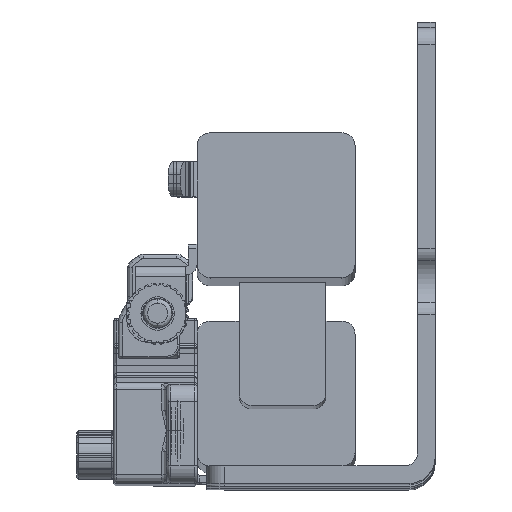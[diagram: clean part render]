
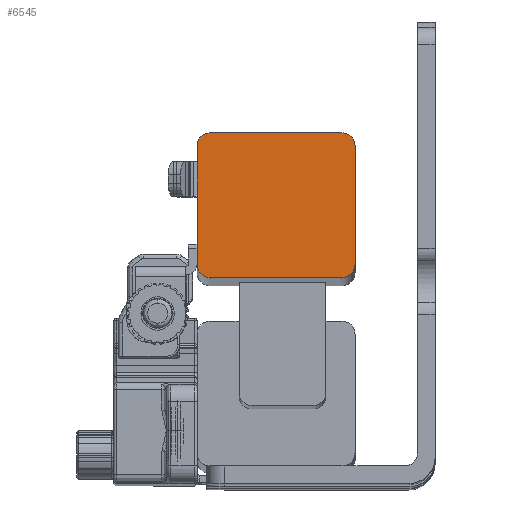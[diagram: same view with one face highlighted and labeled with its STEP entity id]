
A CAD part, top view. The second image highlights one B-rep face of the part: STEP entity #6545.
In plain terms, the highlighted planar face has unit normal (0, 0, 1).
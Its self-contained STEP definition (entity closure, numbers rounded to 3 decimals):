
#274 = VECTOR ( 'NONE', #38844, 1000. ) ;
#856 = VERTEX_POINT ( 'NONE', #59998 ) ;
#4195 = EDGE_CURVE ( 'NONE', #856, #41288, #75195, .T. ) ;
#4599 = DIRECTION ( 'NONE',  ( 0., -1., 0. ) ) ;
#6545 = ADVANCED_FACE ( 'NONE', ( #92036 ), #84496, .T. ) ;
#8576 = CARTESIAN_POINT ( 'NONE',  ( 9., -6.75, 543.1 ) ) ;
#8819 = VERTEX_POINT ( 'NONE', #52694 ) ;
#9535 = ORIENTED_EDGE ( 'NONE', *, *, #91769, .T. ) ;
#10104 = ORIENTED_EDGE ( 'NONE', *, *, #4195, .T. ) ;
#11264 = ORIENTED_EDGE ( 'NONE', *, *, #55963, .T. ) ;
#11595 = ORIENTED_EDGE ( 'NONE', *, *, #44663, .T. ) ;
#13411 = DIRECTION ( 'NONE',  ( 0., 0., 1. ) ) ;
#14455 = VERTEX_POINT ( 'NONE', #67943 ) ;
#16853 = DIRECTION ( 'NONE',  ( -1., 0., 0. ) ) ;
#18333 = AXIS2_PLACEMENT_3D ( 'NONE', #48508, #18851, #34385 ) ;
#18851 = DIRECTION ( 'NONE',  ( 0., 0., 1. ) ) ;
#20411 = DIRECTION ( 'NONE',  ( 1., 0., 0. ) ) ;
#20498 = VERTEX_POINT ( 'NONE', #8576 ) ;
#20832 = EDGE_CURVE ( 'NONE', #32694, #856, #39599, .T. ) ;
#22555 = DIRECTION ( 'NONE',  ( 0., 0., 1. ) ) ;
#22610 = VECTOR ( 'NONE', #24095, 1000. ) ;
#23805 = CARTESIAN_POINT ( 'NONE',  ( 9., 6.75, 543.1 ) ) ;
#24095 = DIRECTION ( 'NONE',  ( -1., 0., 0. ) ) ;
#24710 = DIRECTION ( 'NONE',  ( 1., 0., 0. ) ) ;
#26390 = AXIS2_PLACEMENT_3D ( 'NONE', #69718, #33923, #62661 ) ;
#26554 = DIRECTION ( 'NONE',  ( 0., 0., 1. ) ) ;
#31090 = VECTOR ( 'NONE', #24710, 1000. ) ;
#32550 = CARTESIAN_POINT ( 'NONE',  ( -9., 8.25, 543.1 ) ) ;
#32694 = VERTEX_POINT ( 'NONE', #85031 ) ;
#32893 = CIRCLE ( 'NONE', #85585, 1.5 ) ;
#33923 = DIRECTION ( 'NONE',  ( 0., 0., 1. ) ) ;
#34385 = DIRECTION ( 'NONE',  ( -1., 0., 0. ) ) ;
#38844 = DIRECTION ( 'NONE',  ( 0., 1., 0. ) ) ;
#39599 = LINE ( 'NONE', #32550, #22610 ) ;
#41288 = VERTEX_POINT ( 'NONE', #72510 ) ;
#44663 = EDGE_CURVE ( 'NONE', #57405, #14455, #66529, .T. ) ;
#45748 = ORIENTED_EDGE ( 'NONE', *, *, #47716, .T. ) ;
#46810 = CARTESIAN_POINT ( 'NONE',  ( 7.5, -8.25, 543.1 ) ) ;
#47716 = EDGE_CURVE ( 'NONE', #20498, #78920, #72823, .T. ) ;
#47826 = ORIENTED_EDGE ( 'NONE', *, *, #67501, .T. ) ;
#48215 = CARTESIAN_POINT ( 'NONE',  ( -7.51, 6.76, 543.1 ) ) ;
#48391 = CARTESIAN_POINT ( 'NONE',  ( -9., 8.25, 543.1 ) ) ;
#48508 = CARTESIAN_POINT ( 'NONE',  ( -7.5, -6.75, 543.1 ) ) ;
#50036 = CARTESIAN_POINT ( 'NONE',  ( -9., -6.75, 543.1 ) ) ;
#51709 = VECTOR ( 'NONE', #4599, 1000. ) ;
#51997 = CIRCLE ( 'NONE', #26390, 1.5 ) ;
#52694 = CARTESIAN_POINT ( 'NONE',  ( 7.5, -8.25, 543.1 ) ) ;
#52700 = CARTESIAN_POINT ( 'NONE',  ( 7.5, 6.75, 543.1 ) ) ;
#54045 = ORIENTED_EDGE ( 'NONE', *, *, #20832, .T. ) ;
#55963 = EDGE_CURVE ( 'NONE', #78920, #32694, #32893, .T. ) ;
#57183 = AXIS2_PLACEMENT_3D ( 'NONE', #78423, #13411, #70890 ) ;
#57405 = VERTEX_POINT ( 'NONE', #50036 ) ;
#59998 = CARTESIAN_POINT ( 'NONE',  ( -7.5, 8.25, 543.1 ) ) ;
#62495 = ORIENTED_EDGE ( 'NONE', *, *, #85673, .T. ) ;
#62661 = DIRECTION ( 'NONE',  ( -1., 0., 0. ) ) ;
#65086 = AXIS2_PLACEMENT_3D ( 'NONE', #48215, #26554, #20411 ) ;
#66529 = CIRCLE ( 'NONE', #18333, 1.5 ) ;
#66639 = CARTESIAN_POINT ( 'NONE',  ( 9., 6.75, 543.1 ) ) ;
#67501 = EDGE_CURVE ( 'NONE', #8819, #20498, #51997, .T. ) ;
#67943 = CARTESIAN_POINT ( 'NONE',  ( -7.5, -8.25, 543.1 ) ) ;
#69718 = CARTESIAN_POINT ( 'NONE',  ( 7.5, -6.75, 543.1 ) ) ;
#70890 = DIRECTION ( 'NONE',  ( 1., 0., 0. ) ) ;
#72510 = CARTESIAN_POINT ( 'NONE',  ( -9., 6.75, 543.1 ) ) ;
#72823 = LINE ( 'NONE', #23805, #274 ) ;
#75195 = CIRCLE ( 'NONE', #57183, 1.5 ) ;
#76604 = EDGE_LOOP ( 'NONE', ( #62495, #11595, #9535, #47826, #45748, #11264, #54045, #10104 ) ) ;
#78423 = CARTESIAN_POINT ( 'NONE',  ( -7.5, 6.75, 543.1 ) ) ;
#78920 = VERTEX_POINT ( 'NONE', #66639 ) ;
#83305 = LINE ( 'NONE', #48391, #51709 ) ;
#83599 = LINE ( 'NONE', #46810, #31090 ) ;
#84496 = PLANE ( 'NONE',  #65086 ) ;
#85031 = CARTESIAN_POINT ( 'NONE',  ( 7.5, 8.25, 543.1 ) ) ;
#85585 = AXIS2_PLACEMENT_3D ( 'NONE', #52700, #22555, #16853 ) ;
#85673 = EDGE_CURVE ( 'NONE', #41288, #57405, #83305, .T. ) ;
#91769 = EDGE_CURVE ( 'NONE', #14455, #8819, #83599, .T. ) ;
#92036 = FACE_OUTER_BOUND ( 'NONE', #76604, .T. ) ;
